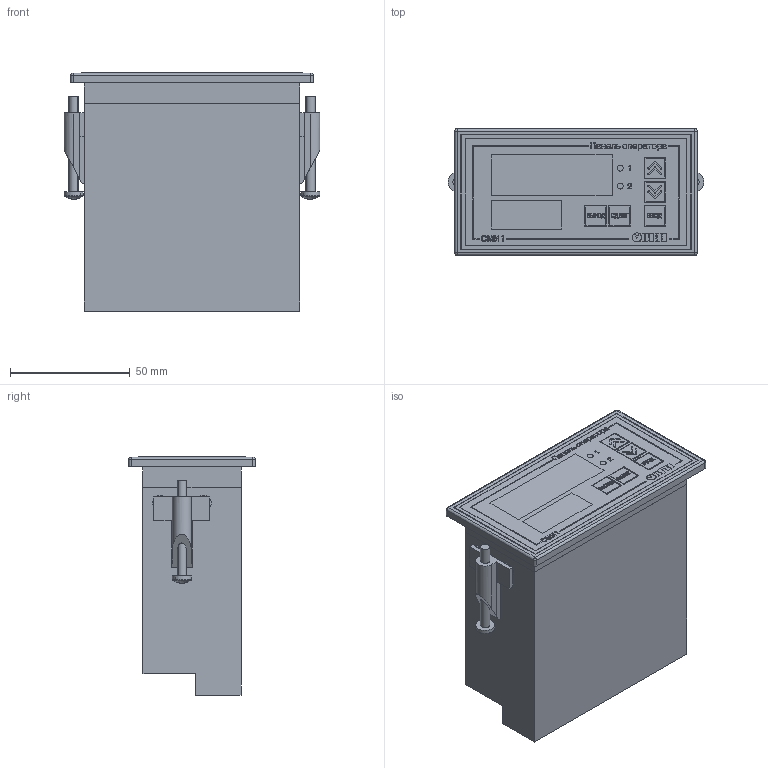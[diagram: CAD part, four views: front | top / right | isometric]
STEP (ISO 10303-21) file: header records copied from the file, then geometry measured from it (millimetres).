
FILE_DESCRIPTION (( 'STEP AP214' ), '1' );
FILE_NAME ('ﾑﾌﾈ1-ﾙ2.STEP', '2018-04-04T13:08:01', ( '' ), ( '' ), 'SwSTEP 2.0', 'SolidWorks 2015', '' );
FILE_SCHEMA (( 'AUTOMOTIVE_DESIGN' ));
Length unit declared in the file: millimetre
Products named in the file (8): Ðåçèíà  48õ96,5; Êëåììà âèíòîâàÿ; RS232; pan cross head_am_B18.6.7M - M4 x 0.7 x 40 Type I Cross Recessed PHMS --40N; Ýòèêåòêà ÑÌÈ1; Êîðïóñ Ù2; ﾑﾌﾈ1-ﾙ2; 栺闀闉 睯艜鍒鍣
Assembly tree (20 placements, depth 2):
  ﾑﾌﾈ1-ﾙ2
    Êîðïóñ Ù2
    Êëåììà âèíòîâàÿ  x12
    Ýòèêåòêà ÑÌÈ1
    Ðåçèíà  48õ96,5
    栺闀闉 睯艜鍒鍣  x2
    pan cross head_am_B18.6.7M - M4 x 0.7 x 40 Type I Cross Recessed PHMS --40N  x2
    RS232
Bounding box: 107 x 53 x 99.6 mm (x, y, z)
Volume: 353872.7 mm3; surface area: 74004.5 mm2
Topology: 21 solids, 21 shells, 1589 faces, 4185 edges, 2742 vertices
Faces by surface type: plane 1143, bspline 251, cylinder 183, sphere 8, torus 4
Entity records: 37637 total; most frequent: CARTESIAN_POINT 9090, ORIENTED_EDGE 5546, DIRECTION 4025, EDGE_CURVE 2773, LINE 2135, VECTOR 2135, VERTEX_POINT 1830, EDGE_LOOP 1187
